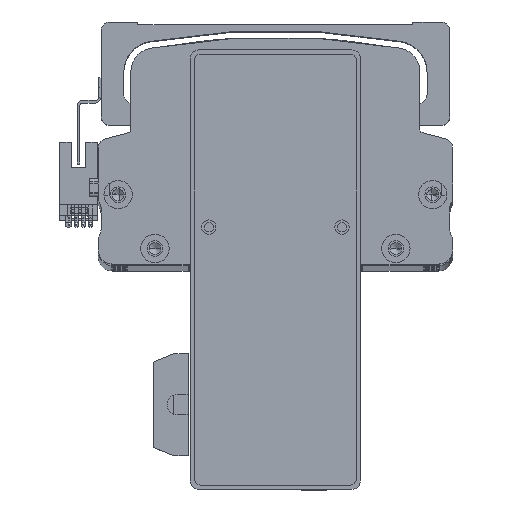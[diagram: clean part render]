
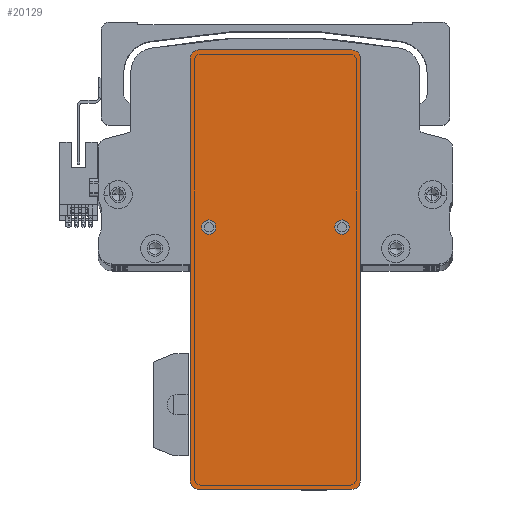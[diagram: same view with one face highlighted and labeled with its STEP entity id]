
A CAD part, top view. The second image highlights one B-rep face of the part: STEP entity #20129.
In plain terms, the highlighted planar face has unit normal (0, 0, 1) as drawn and (0, 0, -1) by its records, which use the part's own axes.
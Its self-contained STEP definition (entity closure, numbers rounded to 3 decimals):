
#746 = AXIS2_PLACEMENT_3D ( 'NONE', #18569, #63910, #25129 ) ;
#1151 = AXIS2_PLACEMENT_3D ( 'NONE', #27844, #73203, #34349 ) ;
#1228 = CARTESIAN_POINT ( 'NONE',  ( 74.5, 30., 0. ) ) ;
#1859 = FACE_OUTER_BOUND ( 'NONE', #48537, .T. ) ;
#2233 = CARTESIAN_POINT ( 'NONE',  ( 12.5, -23.5, 0. ) ) ;
#2555 = LINE ( 'NONE', #76208, #52210 ) ;
#2845 = VERTEX_POINT ( 'NONE', #46385 ) ;
#2893 = CIRCLE ( 'NONE', #70469, 2.5 ) ;
#4607 = VERTEX_POINT ( 'NONE', #28725 ) ;
#5094 = AXIS2_PLACEMENT_3D ( 'NONE', #76690, #37908, #83123 ) ;
#5176 = ORIENTED_EDGE ( 'NONE', *, *, #20375, .T. ) ;
#5468 = AXIS2_PLACEMENT_3D ( 'NONE', #67363, #28549, #73914 ) ;
#5986 = ORIENTED_EDGE ( 'NONE', *, *, #65765, .F. ) ;
#6849 = VERTEX_POINT ( 'NONE', #26273 ) ;
#6961 = CARTESIAN_POINT ( 'NONE',  ( -74.5, -27., 0. ) ) ;
#7579 = VECTOR ( 'NONE', #71926, 1000. ) ;
#7711 = CIRCLE ( 'NONE', #29523, 2.5 ) ;
#7807 = AXIS2_PLACEMENT_3D ( 'NONE', #14536, #59966, #21135 ) ;
#9252 = LINE ( 'NONE', #55395, #43746 ) ;
#9360 = EDGE_CURVE ( 'NONE', #2845, #32601, #67263, .T. ) ;
#9852 = CIRCLE ( 'NONE', #58604, 2.5 ) ;
#9891 = VERTEX_POINT ( 'NONE', #41896 ) ;
#10419 = EDGE_CURVE ( 'NONE', #6849, #62194, #9252, .T. ) ;
#11161 = VERTEX_POINT ( 'NONE', #34150 ) ;
#11588 = CARTESIAN_POINT ( 'NONE',  ( 12.5, 23.5, 0. ) ) ;
#13386 = DIRECTION ( 'NONE',  ( 1., 0., 0. ) ) ;
#13933 = VERTEX_POINT ( 'NONE', #82576 ) ;
#14536 = CARTESIAN_POINT ( 'NONE',  ( 74.5, -27., 0. ) ) ;
#16490 = DIRECTION ( 'NONE',  ( 0., 1., 0. ) ) ;
#17029 = ORIENTED_EDGE ( 'NONE', *, *, #79783, .F. ) ;
#18569 = CARTESIAN_POINT ( 'NONE',  ( 15., -23.5, 0. ) ) ;
#19397 = CARTESIAN_POINT ( 'NONE',  ( 15., -23.5, 0. ) ) ;
#19700 = DIRECTION ( 'NONE',  ( 0., 0., -1. ) ) ;
#20129 = ADVANCED_FACE ( 'NONE', ( #83884, #66693, #1859 ), #50639, .F. ) ;
#20138 = EDGE_CURVE ( 'NONE', #40367, #13933, #43427, .T. ) ;
#20375 = EDGE_CURVE ( 'NONE', #6849, #11161, #55535, .T. ) ;
#21135 = DIRECTION ( 'NONE',  ( 1., 0., 0. ) ) ;
#23456 = DIRECTION ( 'NONE',  ( 0., 0., -1. ) ) ;
#25053 = CIRCLE ( 'NONE', #67229, 3. ) ;
#25129 = DIRECTION ( 'NONE',  ( -1., 0., 0. ) ) ;
#25926 = DIRECTION ( 'NONE',  ( -1., 0., 0. ) ) ;
#26273 = CARTESIAN_POINT ( 'NONE',  ( 77.5, -27., 0. ) ) ;
#27844 = CARTESIAN_POINT ( 'NONE',  ( -74.5, 27., 0. ) ) ;
#28549 = DIRECTION ( 'NONE',  ( 0., 0., -1. ) ) ;
#28725 = CARTESIAN_POINT ( 'NONE',  ( -74.5, -30., 0. ) ) ;
#28924 = CARTESIAN_POINT ( 'NONE',  ( 77.5, 27., 0. ) ) ;
#29523 = AXIS2_PLACEMENT_3D ( 'NONE', #19397, #64716, #25926 ) ;
#31289 = ORIENTED_EDGE ( 'NONE', *, *, #20138, .F. ) ;
#32601 = VERTEX_POINT ( 'NONE', #62056 ) ;
#33408 = EDGE_CURVE ( 'NONE', #13933, #40367, #7711, .T. ) ;
#34150 = CARTESIAN_POINT ( 'NONE',  ( 74.5, -30., 0. ) ) ;
#34349 = DIRECTION ( 'NONE',  ( 1., 0., 0. ) ) ;
#37908 = DIRECTION ( 'NONE',  ( 0., 0., 1. ) ) ;
#38103 = LINE ( 'NONE', #60073, #70508 ) ;
#38197 = CIRCLE ( 'NONE', #5468, 3. ) ;
#39067 = ORIENTED_EDGE ( 'NONE', *, *, #78667, .T. ) ;
#39974 = EDGE_CURVE ( 'NONE', #2845, #67324, #2555, .T. ) ;
#40367 = VERTEX_POINT ( 'NONE', #2233 ) ;
#41896 = CARTESIAN_POINT ( 'NONE',  ( 17.5, 23.5, 0. ) ) ;
#42112 = LINE ( 'NONE', #45866, #7579 ) ;
#43427 = CIRCLE ( 'NONE', #746, 2.5 ) ;
#43746 = VECTOR ( 'NONE', #16490, 1000. ) ;
#45866 = CARTESIAN_POINT ( 'NONE',  ( 77.5, -30., 0. ) ) ;
#46385 = CARTESIAN_POINT ( 'NONE',  ( -77.5, 27., 0. ) ) ;
#48015 = ORIENTED_EDGE ( 'NONE', *, *, #78650, .F. ) ;
#48025 = EDGE_LOOP ( 'NONE', ( #48015, #52617 ) ) ;
#48537 = EDGE_LOOP ( 'NONE', ( #56392, #5176, #17029, #39067, #54995, #60097, #5986, #63193 ) ) ;
#50639 = PLANE ( 'NONE',  #5094 ) ;
#52210 = VECTOR ( 'NONE', #82638, 1000. ) ;
#52298 = DIRECTION ( 'NONE',  ( 0., 0., -1. ) ) ;
#52617 = ORIENTED_EDGE ( 'NONE', *, *, #78473, .F. ) ;
#53259 = DIRECTION ( 'NONE',  ( -1., 0., 0. ) ) ;
#53853 = ORIENTED_EDGE ( 'NONE', *, *, #33408, .F. ) ;
#54231 = VERTEX_POINT ( 'NONE', #11588 ) ;
#54995 = ORIENTED_EDGE ( 'NONE', *, *, #39974, .F. ) ;
#55294 = CARTESIAN_POINT ( 'NONE',  ( -77.5, -27., 0. ) ) ;
#55395 = CARTESIAN_POINT ( 'NONE',  ( 77.5, -30., 0. ) ) ;
#55535 = CIRCLE ( 'NONE', #7807, 3. ) ;
#56392 = ORIENTED_EDGE ( 'NONE', *, *, #10419, .F. ) ;
#58556 = CARTESIAN_POINT ( 'NONE',  ( 15., 23.5, 0. ) ) ;
#58604 = AXIS2_PLACEMENT_3D ( 'NONE', #58556, #19700, #65004 ) ;
#58845 = EDGE_LOOP ( 'NONE', ( #31289, #53853 ) ) ;
#59966 = DIRECTION ( 'NONE',  ( 0., 0., -1. ) ) ;
#60073 = CARTESIAN_POINT ( 'NONE',  ( 77.5, 30., 0. ) ) ;
#60097 = ORIENTED_EDGE ( 'NONE', *, *, #9360, .T. ) ;
#62056 = CARTESIAN_POINT ( 'NONE',  ( -74.5, 30., 0. ) ) ;
#62194 = VERTEX_POINT ( 'NONE', #28924 ) ;
#62231 = CARTESIAN_POINT ( 'NONE',  ( 15., 23.5, 0. ) ) ;
#63193 = ORIENTED_EDGE ( 'NONE', *, *, #72054, .T. ) ;
#63543 = VERTEX_POINT ( 'NONE', #1228 ) ;
#63910 = DIRECTION ( 'NONE',  ( 0., 0., -1. ) ) ;
#64716 = DIRECTION ( 'NONE',  ( 0., 0., -1. ) ) ;
#65004 = DIRECTION ( 'NONE',  ( -1., 0., 0. ) ) ;
#65765 = EDGE_CURVE ( 'NONE', #63543, #32601, #38103, .T. ) ;
#66693 = FACE_BOUND ( 'NONE', #58845, .T. ) ;
#67229 = AXIS2_PLACEMENT_3D ( 'NONE', #6961, #52298, #13386 ) ;
#67263 = CIRCLE ( 'NONE', #1151, 3. ) ;
#67324 = VERTEX_POINT ( 'NONE', #55294 ) ;
#67363 = CARTESIAN_POINT ( 'NONE',  ( 74.5, 27., 0. ) ) ;
#68740 = DIRECTION ( 'NONE',  ( -1., 0., 0. ) ) ;
#70469 = AXIS2_PLACEMENT_3D ( 'NONE', #62231, #23456, #68740 ) ;
#70508 = VECTOR ( 'NONE', #53259, 1000. ) ;
#71926 = DIRECTION ( 'NONE',  ( 1., 0., 0. ) ) ;
#72054 = EDGE_CURVE ( 'NONE', #63543, #62194, #38197, .T. ) ;
#73203 = DIRECTION ( 'NONE',  ( 0., 0., -1. ) ) ;
#73914 = DIRECTION ( 'NONE',  ( 1., 0., 0. ) ) ;
#76208 = CARTESIAN_POINT ( 'NONE',  ( -77.5, -30., 0. ) ) ;
#76690 = CARTESIAN_POINT ( 'NONE',  ( 0., 0., 0. ) ) ;
#78473 = EDGE_CURVE ( 'NONE', #9891, #54231, #2893, .T. ) ;
#78650 = EDGE_CURVE ( 'NONE', #54231, #9891, #9852, .T. ) ;
#78667 = EDGE_CURVE ( 'NONE', #4607, #67324, #25053, .T. ) ;
#79783 = EDGE_CURVE ( 'NONE', #4607, #11161, #42112, .T. ) ;
#82576 = CARTESIAN_POINT ( 'NONE',  ( 17.5, -23.5, 0. ) ) ;
#82638 = DIRECTION ( 'NONE',  ( 0., -1., 0. ) ) ;
#83123 = DIRECTION ( 'NONE',  ( 1., 0., 0. ) ) ;
#83884 = FACE_BOUND ( 'NONE', #48025, .T. ) ;
